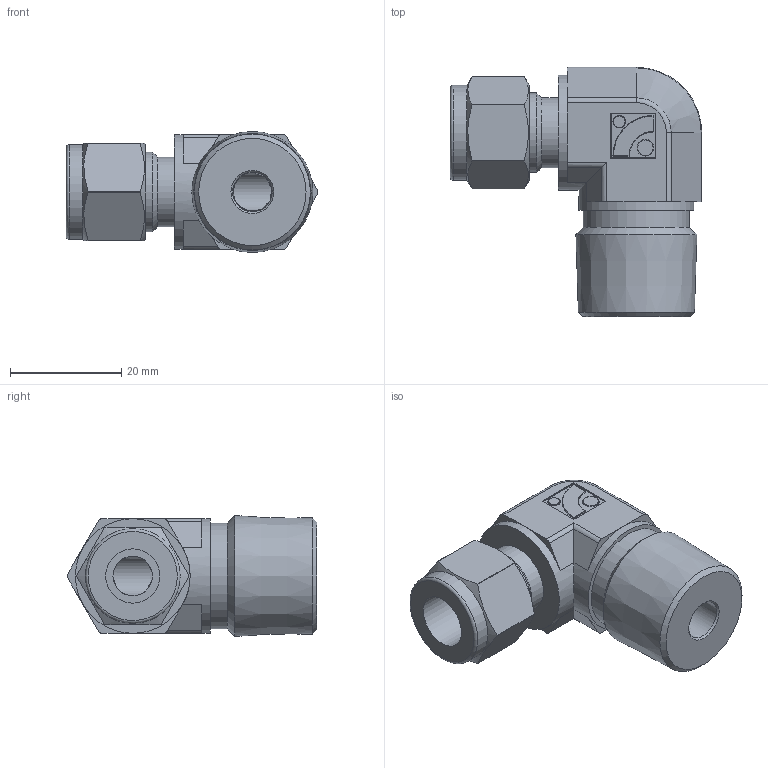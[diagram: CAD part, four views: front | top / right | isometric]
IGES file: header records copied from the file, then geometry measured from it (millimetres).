
Global section: file name: No Iges File Name specified; native system: Autodesk Inventor 2012; preprocessor: AutoDesk Inventor Iges Exporter R2012; author: 硅己绕,,1; organization: 1; date: 20150703.114117; units: millimetre
Bounding box: 45.15 x 44.74 x 21.71 mm (x, y, z)
Volume: 17352.7 mm3; surface area: 6712.4 mm2
Topology: 1 solids, 1 shells, 116 faces, 263 edges, 154 vertices
Faces by surface type: plane 42, cylinder 35, revolution 19, cone 8, torus 8, sphere 4
Full cylindrical faces by diameter (mm): 2.16 x1, 2.88 x1, 12.5 x1, 14.28 x1, 17 x1, 19 x1, 20.6 x2
